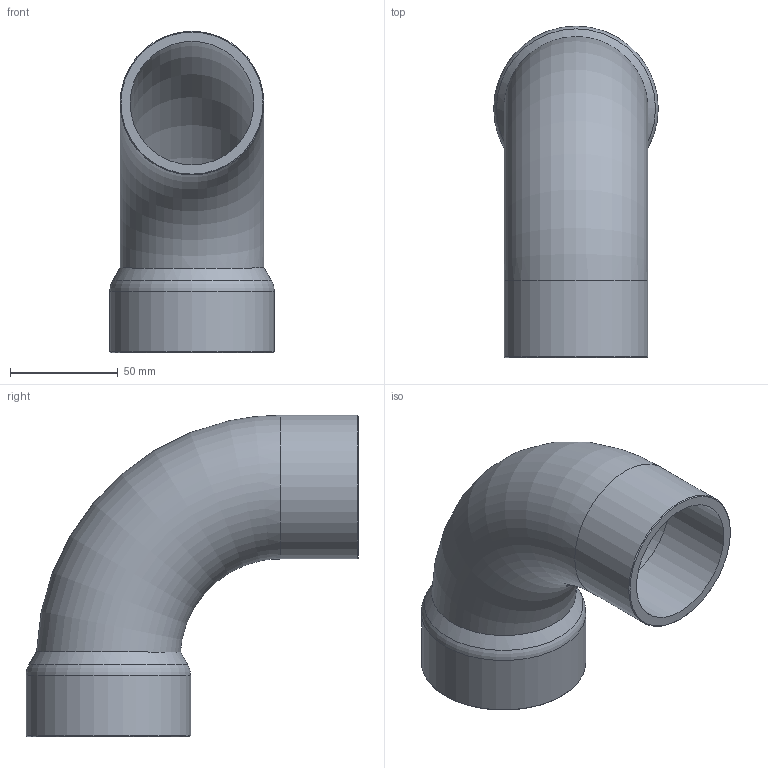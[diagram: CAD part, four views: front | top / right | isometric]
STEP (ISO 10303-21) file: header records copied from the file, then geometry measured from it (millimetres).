
FILE_DESCRIPTION((''),'2;1');
FILE_NAME('Z:\Technik\Management\Bouwmaten + markeringen\z-maattekeningen 3D\29000s\29000s_gem\29001A258_3d.stp','2020-05-26T11:23:54',('vdvijverd'),(''),'Autodesk Inventor 2009','Autodesk Inventor 2009','');
FILE_SCHEMA(('AUTOMOTIVE_DESIGN { 1 0 10303 214 1 1 1 1 }'));
Length unit declared in the file: millimetre
Products named in the file (1): 29001A258_3d
Bounding box: 76.33 x 153.97 x 149.14 mm (x, y, z)
Volume: 185830.4 mm3; surface area: 81246.3 mm2
Topology: 1 solids, 1 shells, 15 faces, 31 edges, 18 vertices
Faces by surface type: cone 5, cylinder 4, torus 3, plane 2, bspline 1
Full cylindrical faces by diameter (mm): 57.315 x1, 66.675 x1, 66.975 x1, 76.335 x1
Entity records: 438 total; most frequent: CARTESIAN_POINT 160, DIRECTION 56, ORIENTED_EDGE 30, EDGE_LOOP 30, AXIS2_PLACEMENT_3D 28, VERTEX_POINT 15, EDGE_CURVE 15, FACE_OUTER_BOUND 15
